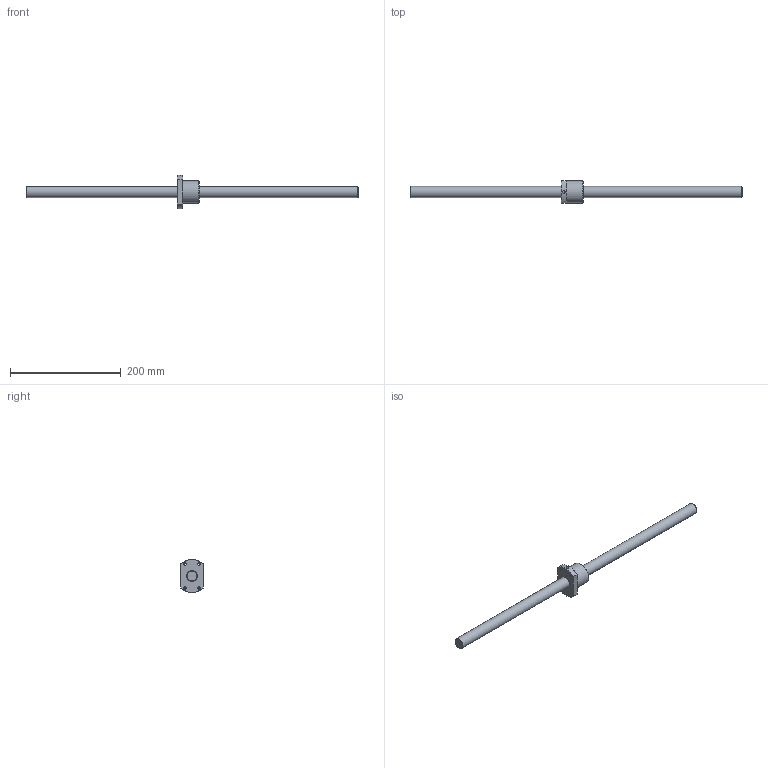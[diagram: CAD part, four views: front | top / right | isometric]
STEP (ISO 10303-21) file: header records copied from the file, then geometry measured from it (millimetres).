
FILE_DESCRIPTION((''),'2;1');
FILE_NAME('D:\製品 (図面)\カタログ用3D\ネジ関連\STEP形式\RBSMA\RBSMA2005-0600.stp','2010-06-02T14:43:13',('Tsuchiya'),(''),'Autodesk Inventor 10','Autodesk Inventor 10','');
FILE_SCHEMA(('AUTOMOTIVE_DESIGN { 1 0 10303 214 1 1 1 1 }'));
Length unit declared in the file: millimetre
Products named in the file (3): RBSMA2005-0600; RBSMA2005-06001; RBSMA2005-06002
Assembly tree (2 placements, depth 2):
  RBSMA2005-0600
    RBSMA2005-06001
    RBSMA2005-06002
Bounding box: 600 x 40 x 59.9 mm (x, y, z)
Volume: 234592.6 mm3; surface area: 50713 mm2
Topology: 2 solids, 2 shells, 25 faces, 63 edges, 42 vertices
Faces by surface type: cylinder 9, plane 8, cone 7, bspline 1
Full cylindrical faces by diameter (mm): 4.5 x4, 20 x2, 40 x1
Entity records: 891 total; most frequent: CARTESIAN_POINT 276, DIRECTION 120, ORIENTED_EDGE 94, AXIS2_PLACEMENT_3D 55, EDGE_LOOP 48, EDGE_CURVE 47, VERTEX_POINT 37, CIRCLE 26
